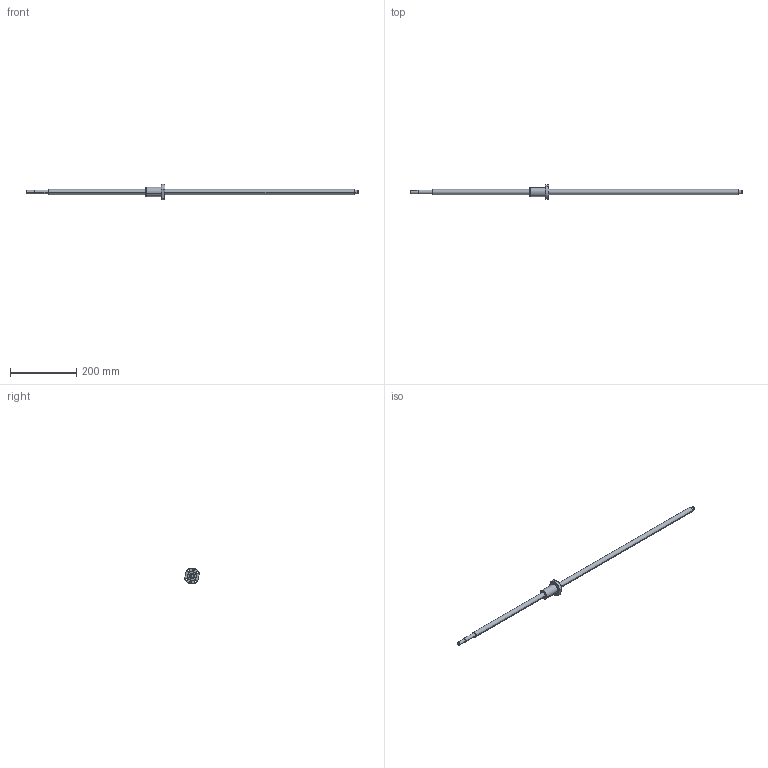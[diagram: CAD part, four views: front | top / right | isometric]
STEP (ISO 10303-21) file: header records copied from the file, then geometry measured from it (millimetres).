
FILE_DESCRIPTION (( 'STEP AP214' ), '1' );
FILE_NAME ('2.2123 SFU1610-1000mm.STEP', '2025-09-19T08:04:41', ( '' ), ( '' ), 'SwSTEP 2.0', 'SolidWorks 2025', '' );
FILE_SCHEMA (( 'AUTOMOTIVE_DESIGN' ));
Length unit declared in the file: millimetre
Products named in the file (3): 2.3013 Kuularuuvimutteri SFU1610-3; 2.2123 SFU1610-1000mm
Assembly tree (2 placements, depth 2):
  2.2123 SFU1610-1000mm
    2.2123 SFU1610-1000mm
    2.3013 Kuularuuvimutteri SFU1610-3
Bounding box: 1000 x 45.17 x 47.86 mm (x, y, z)
Volume: 219293.1 mm3; surface area: 61889.8 mm2
Topology: 3 solids, 3 shells, 70 faces, 161 edges, 104 vertices
Faces by surface type: cylinder 37, plane 18, cone 9, bspline 6
Entity records: 2680 total; most frequent: CARTESIAN_POINT 858, DIRECTION 365, ORIENTED_EDGE 322, EDGE_CURVE 161, AXIS2_PLACEMENT_3D 153, VERTEX_POINT 104, EDGE_LOOP 93, CIRCLE 84
